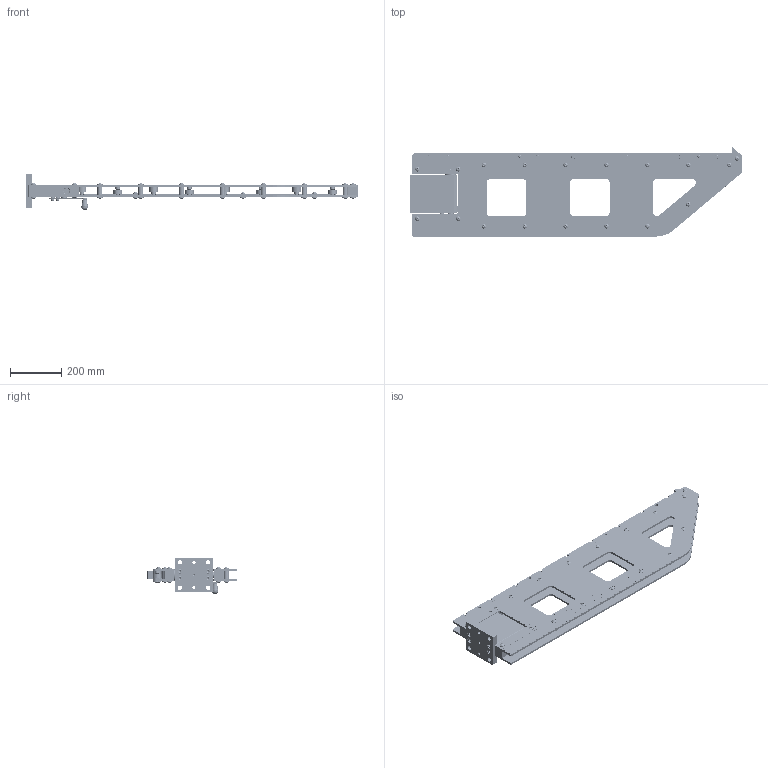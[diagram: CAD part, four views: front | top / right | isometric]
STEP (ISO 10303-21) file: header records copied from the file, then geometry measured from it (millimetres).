
FILE_DESCRIPTION(/* description */ ('CONSOLE PLATE RIGHT'),/* implementation_level */ '2;1');
FILE_NAME(/* name */ 'C:\Users\jaccow\AppData\Local\Temp\Cadac\NetworkPub\step\FB686-950.iam.stp',/* time_stamp */ '2017-12-14T13:08:30+01:00',/* author */ ('Yue'),/* organization */ (''),/* preprocessor_version */ 'ST-DEVELOPER v16.1',/* originating_system */ 'Autodesk Inventor 2016',/* authorisation */ '');
FILE_SCHEMA (('AUTOMOTIVE_DESIGN { 1 0 10303 214 3 1 1 }'));
Products named in the file (35): FB690-101; FB622-186; CCE1020-028-9A; FB832-690; FB676-690; FB620-044; FB621-104; FB627-104; DQ1504-281; FB691-101; CAE1100-1081A; DQ1397-120; FB861-026; FB862-026; FB828-298; FB688-950; FB643-101; FB642-690; CCA1227-0281A; FB633-061; FB632-070; PP0306-070; CBA821-0281B; CAA1233-0612C; PP0307-155; PP0308-155; PP0309-110; PP0377-130; PP0304-108; PP0378-108; FB641-950; PP0311-071; FB678-104; CCA615-0285C; FB686-950
Assembly tree (120 placements, depth 3):
  FB686-950
    FB688-950
      FB690-101  x2
      FB622-186  x13
      CCE1020-028-9A  x40
      FB832-690
      FB676-690
      FB620-044
      FB621-104  x5
      FB627-104  x9
      DQ1504-281  x9
      FB691-101
      CAE1100-1081A  x4
      DQ1397-120  x4
      FB861-026
      FB862-026
      FB828-298
    FB641-950
      FB643-101
      FB642-690
      CCA1227-0281A  x4
      FB633-061
      FB632-070
      PP0306-070
      CBA821-0281B
      CAA1233-0612C
      PP0307-155  x2
      PP0308-155
      PP0309-110
      PP0377-130  x2
      PP0304-108  x2
      PP0378-108  x2
    PP0311-071
    FB678-104
    CCA615-0285C  x2
Bounding box: 1299 x 348.57 x 142.5 mm (x, y, z)
Volume: 7598276.1 mm3; surface area: 2441508.6 mm2
Topology: 158 solids, 158 shells, 4764 faces, 11415 edges, 7402 vertices
Faces by surface type: plane 2594, bspline 905, cylinder 617, cone 488, torus 159, sphere 1
Full cylindrical faces by diameter (mm): 1.215 x9, 2.4 x9, 3 x1, 4.773 x2, 4.917 x4, 4.918 x1, 6 x4, 6.4 x1, 6.647 x1, 7.42 x2, 8 x5, 8.1 x1, 8.376 x22, 8.4 x4, 8.5 x1, 10 x69, 10.106 x4, 10.5 x4, 11 x4, 11.5 x10, 12 x6, 12.1 x3, 13 x2, 13.5 x4, 15 x20, 15.425 x1, 15.95 x5, 16 x15, 16.1 x1, 17 x2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
Entity records: 101174 total; most frequent: CARTESIAN_POINT 30990, ORIENTED_EDGE 15448, DIRECTION 11194, EDGE_CURVE 7715, LINE 5312, VECTOR 5312, VERTEX_POINT 5250, EDGE_LOOP 3706
